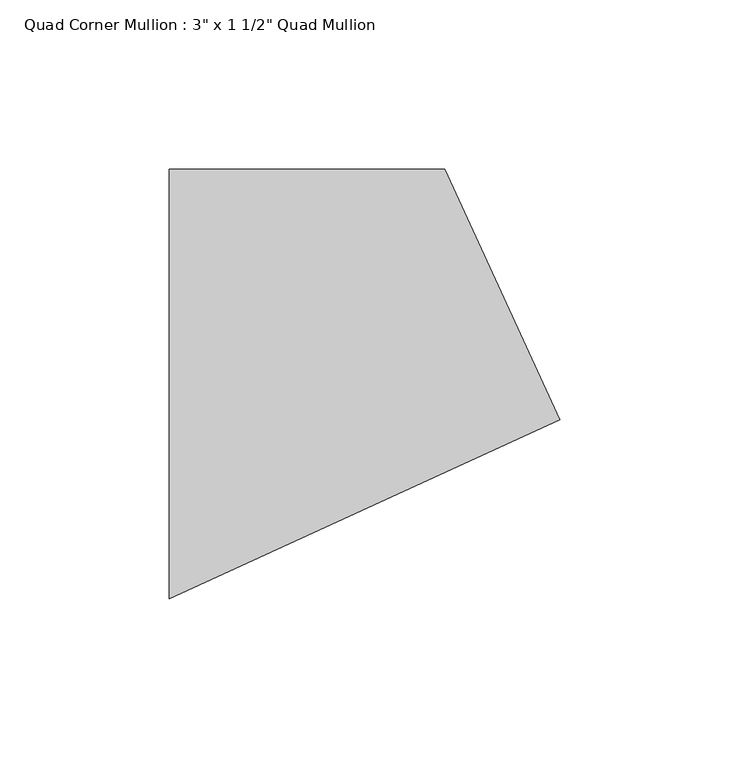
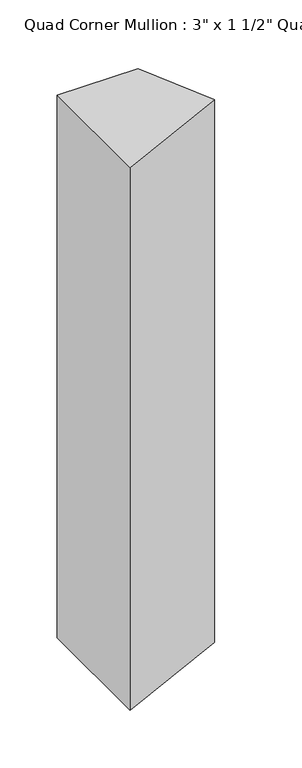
"""IFC4 building model written with IfcOpenShell, lengths in millimetres: member geometry."""

from ifc_helpers import new_model, si_unit, frame, origin, place, context, project, spatial, polyline, outline, extrude, source, transform, mapped, element, save


def member_18bfbf2a(model_context):
    return source(origin(), model_context, "Body", "SweptSolid", [
        extrude(outline(polyline([(74.7078921, -10.6493518), (-40.7728811, -63.5), (-40.7728811, 63.5), (40.7728811, 63.5), (74.7078921, -10.6493518)])), frame((0.0, 0.0, -577.85), z_axis=(0.0, 0.0, 1.0), x_axis=(1.0, 0.0, 0.0)), (0.0, 0.0, 1.0), 577.85),
    ])


if __name__ == "__main__":
    model = new_model("IFC4")
    model_context = context("Model", 3, world=origin())
    ifc_project = project(units=[si_unit("LENGTHUNIT", "METRE", prefix="MILLI")], contexts=[model_context])
    site = spatial("IfcSite", under=ifc_project)
    building = spatial("IfcBuilding", under=site)
    placement = place(None, origin())
    member_shape = member_18bfbf2a(model_context)
    element("IfcMember", 1, ObjectType="Quad Corner Mullion : 3\" x 1 1/2\" Quad Mullion", at=placement, inside=building, context=model_context, shape_type="MappedRepresentation", body=[
        mapped(member_shape, transform((0.0, 0.0, 0.0), x_axis=(1.0, 0.0, 0.0), y_axis=(0.0, 1.0, 0.0), z_axis=(0.0, 0.0, 1.0))),
    ])
    save(model, "model.ifc")
